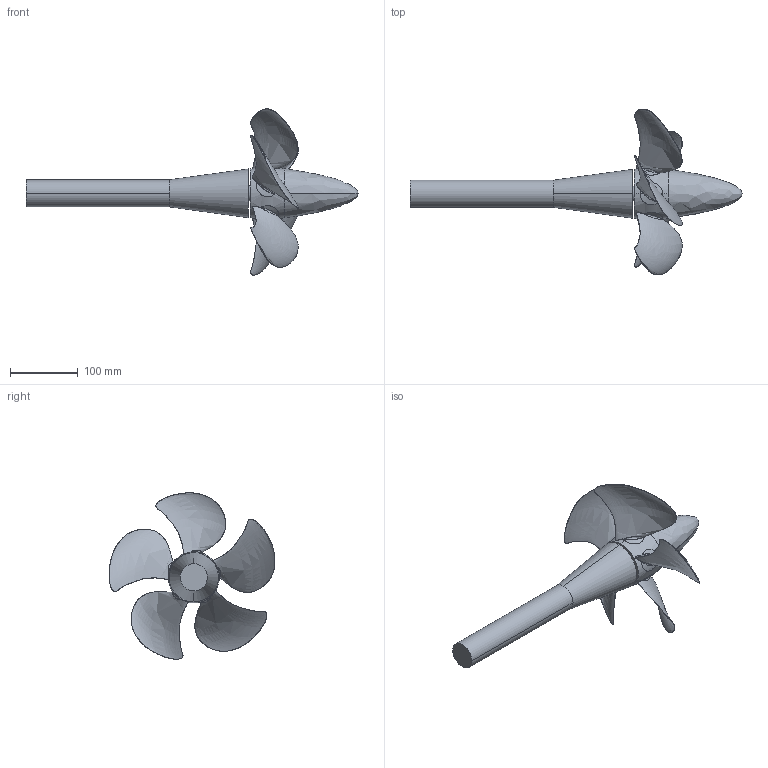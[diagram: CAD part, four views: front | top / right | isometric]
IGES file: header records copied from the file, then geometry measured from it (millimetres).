
Global section: file name: K:\SMP2011_VP1304\3D-Daten\case2-1_PPTC_geo.igs; native system: Rhinoceros ( Jul  9 2009 ); preprocessor: Trout Lake IGES 012 Jul  9 2009; date: 110826.092538; units: millimetre
Bounding box: 489.69 x 244.71 x 245.36 mm (x, y, z)
Surface area: 164585.8 mm2 (no closed solid volume)
Topology: 0 solids, 0 shells, 72 faces, 3874 edges, 3891 vertices
Faces by surface type: bspline 69, plane 3
